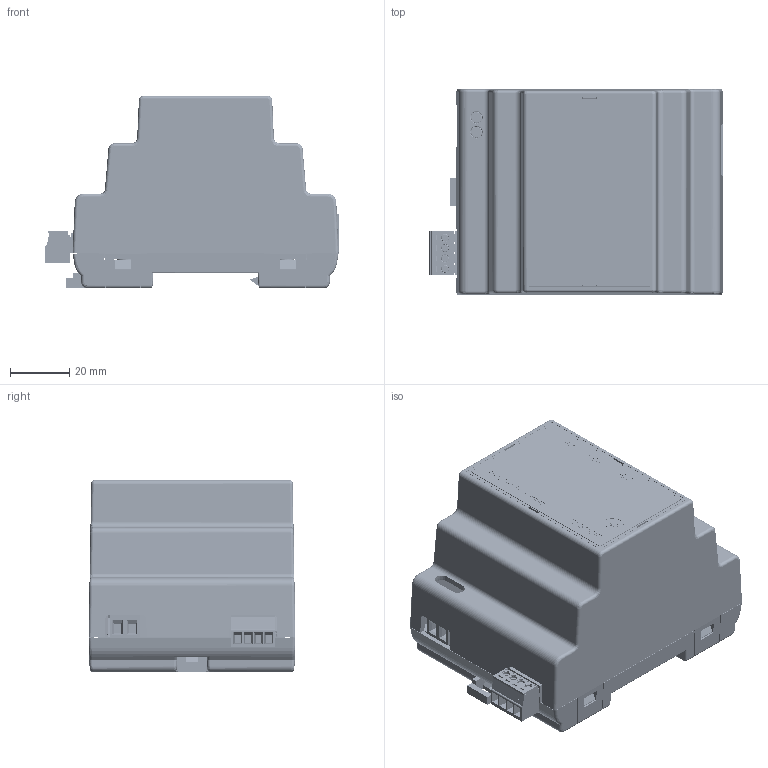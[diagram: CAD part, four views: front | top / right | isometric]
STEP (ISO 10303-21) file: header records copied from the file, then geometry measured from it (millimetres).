
FILE_DESCRIPTION(/* description */ (''),/* implementation_level */ '2;1');
FILE_NAME(/* name */ 'EX-MODBUS.step',/* time_stamp */ '2026-01-24T15:23:14+01:00',/* author */ (''),/* organization */ (''),/* preprocessor_version */ 'ST-DEVELOPER v20.1',/* originating_system */ 'Autodesk Translation Framework v14.24.0.0',/* authorisation */ '');
FILE_SCHEMA (('AUTOMOTIVE_DESIGN { 1 0 10303 214 3 1 1 }'));
Products named in the file (65): EX-S1m; OP-1015 Wer.3; OP-1015_A; OP-1015_B_3; OP-1015_D; OP-267-D; FF-1015_A; S_023.05.000.00058/...061; S_023.06.000.00010; S_023.01.000.00004; ST-1658_2_2_C; Board; Packages; LPJ0012GDNL; 615008185221_Housing; 615008185221_Housing2; pin1; pin2; pin3; pin5; pin4; pin6; pin7; pin8; 615008185221_Shielding; 615008185221_GreenLed; 615008185221_YellowLed; pin_led; 15EDGRC-3.5-04P+WTYK; 15EDGRC-3.5-04P-14-00AH v1; 15EDGK-3.5-04P-14-00AH v1; SJK-6I; DIODE-1206; Pin1_1; Pin2_1; CeramicBody; SOT23-BEC_V1; FUSE_1808; MICRO-PHILIPS_SO8; TQFP48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
Assembly tree (126 placements, depth 5):
  EX-S1m
    OP-1015 Wer.3
      OP-1015_A
      OP-1015_B_3
      OP-1015_D
      OP-267-D
      FF-1015_A
      S_023.05.000.00058/...061  x2
      S_023.06.000.00010  x2
      S_023.01.000.00004  x4
    ST-1658_2_2_C
      Board
      Packages
        LPJ0012GDNL
          615008185221_Housing
          615008185221_Housing2
          pin1
          pin2
          pin3
          pin5
          pin4
          pin6
          pin7
          pin8
          615008185221_Shielding
          pin_led  x4
          615008185221_GreenLed
          615008185221_YellowLed
        15EDGRC-3.5-04P+WTYK
          15EDGRC-3.5-04P-14-00AH v1
          15EDGK-3.5-04P-14-00AH v1
        SJK-6I
        DIODE-1206
          Pin1_1
          Pin2_1
          CeramicBody
        SMA  x3
        SOT23-BEC_V1
        FUSE_1808
        MICRO-PHILIPS_SO8
        TQFP48
        TSOT26
        ESP32-S2-MINI-1
        C0603  x17
        C0805  x5
        C1206  x5
        C_POL_FI_6.3_H_5.8
        C_POL_FI_6.3_H_7.7
        L0402
          74279273
          Lötende  x2
        NRS6028T___
          housing
          contact  x2
          spule
          Glue
        R0402
        R0603  x15
        R0805  x9
        R1206  x4
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Bounding box: 99.21 x 70 x 65.1 mm (x, y, z)
Volume: 99036.5 mm3; surface area: 109944.5 mm2
Topology: 328 solids, 332 shells, 14059 faces, 37220 edges, 23898 vertices
Faces by surface type: plane 9064, cylinder 2920, bspline 1385, sphere 560, cone 82, torus 48
Full cylindrical faces by diameter (mm): 0.3 x2, 0.4 x56, 0.5 x192, 0.6 x8, 0.8 x2, 0.9 x14, 1 x9, 1.016 x18, 1.04 x8, 1.2 x16, 1.3 x8, 1.7 x2, 1.9 x4, 2 x8, 2.4 x2, 2.529 x178, 2.693 x4, 2.7 x3, 2.8 x8, 2.83 x2, 2.927 x4, 3 x4, 3.086 x178, 3.2 x2, 4 x3, 4.1 x4, 5.5 x4, 6.25 x2, 7.6 x1
Entity records: 390977 total; most frequent: CARTESIAN_POINT 149023, ORIENTED_EDGE 51578, DIRECTION 43547, EDGE_CURVE 25789, LINE 19843, VECTOR 19843, VERTEX_POINT 16991, AXIS2_PLACEMENT_3D 11852
